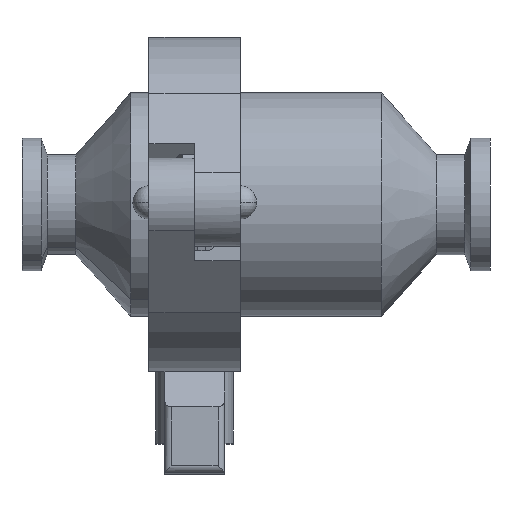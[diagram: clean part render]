
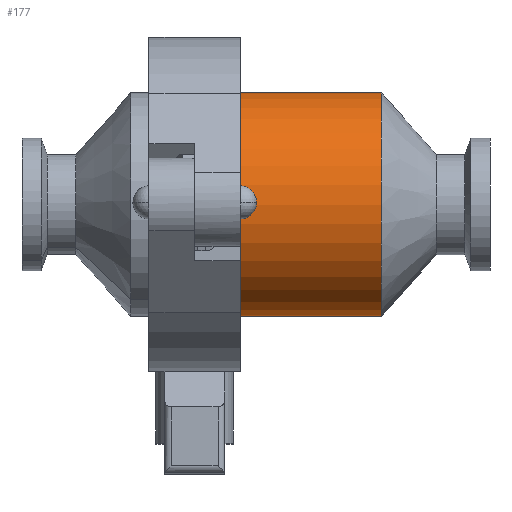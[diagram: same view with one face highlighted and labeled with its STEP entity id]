
A CAD part, left-side view. The second image highlights one B-rep face of the part: STEP entity #177.
In plain terms, the highlighted cylindrical face has radius 21.273 mm (diameter 42.545 mm), a partial arc.
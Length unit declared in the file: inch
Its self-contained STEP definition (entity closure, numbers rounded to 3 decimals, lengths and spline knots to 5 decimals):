
#177 = ADVANCED_FACE ( 'NONE', ( #6455 ), #11173, .T. ) ;
#380 = DIRECTION ( 'NONE',  ( 0., 0., -1. ) ) ;
#909 = CIRCLE ( 'NONE', #7836, 0.8375 ) ;
#927 = CARTESIAN_POINT ( 'NONE',  ( 0.12977, 1.6312, 0.64462 ) ) ;
#1011 = LINE ( 'NONE', #10580, #8327 ) ;
#1127 = CARTESIAN_POINT ( 'NONE',  ( 0.12977, 0.53155, 1.48212 ) ) ;
#1528 = LINE ( 'NONE', #11865, #3434 ) ;
#2079 = DIRECTION ( 'NONE',  ( 0., 0., -1. ) ) ;
#2511 = DIRECTION ( 'NONE',  ( 0., -1., 0. ) ) ;
#2701 = VERTEX_POINT ( 'NONE', #11198 ) ;
#3009 = VERTEX_POINT ( 'NONE', #7926 ) ;
#3418 = AXIS2_PLACEMENT_3D ( 'NONE', #11857, #2511, #11747 ) ;
#3434 = VECTOR ( 'NONE', #10950, 39.37008 ) ;
#3520 = CIRCLE ( 'NONE', #7086, 0.8375 ) ;
#3906 = DIRECTION ( 'NONE',  ( 0., -1., 0. ) ) ;
#5375 = ORIENTED_EDGE ( 'NONE', *, *, #7035, .F. ) ;
#5901 = ORIENTED_EDGE ( 'NONE', *, *, #7717, .F. ) ;
#6066 = DIRECTION ( 'NONE',  ( 0., -1., 0. ) ) ;
#6167 = VERTEX_POINT ( 'NONE', #927 ) ;
#6455 = FACE_OUTER_BOUND ( 'NONE', #10061, .T. ) ;
#6601 = VERTEX_POINT ( 'NONE', #10101 ) ;
#7035 = EDGE_CURVE ( 'NONE', #3009, #6601, #3520, .T. ) ;
#7086 = AXIS2_PLACEMENT_3D ( 'NONE', #1127, #7813, #2079 ) ;
#7571 = ORIENTED_EDGE ( 'NONE', *, *, #11201, .T. ) ;
#7717 = EDGE_CURVE ( 'NONE', #2701, #3009, #1011, .T. ) ;
#7813 = DIRECTION ( 'NONE',  ( 0., -1., 0. ) ) ;
#7836 = AXIS2_PLACEMENT_3D ( 'NONE', #11716, #6066, #380 ) ;
#7926 = CARTESIAN_POINT ( 'NONE',  ( 0.12977, 0.53155, 2.31962 ) ) ;
#8327 = VECTOR ( 'NONE', #3906, 39.37008 ) ;
#8529 = ORIENTED_EDGE ( 'NONE', *, *, #11687, .T. ) ;
#10061 = EDGE_LOOP ( 'NONE', ( #5901, #7571, #8529, #5375 ) ) ;
#10101 = CARTESIAN_POINT ( 'NONE',  ( 0.12977, 0.53155, 0.64462 ) ) ;
#10580 = CARTESIAN_POINT ( 'NONE',  ( 0.12977, 1.84355, 2.31962 ) ) ;
#10950 = DIRECTION ( 'NONE',  ( 0., -1., 0. ) ) ;
#11173 = CYLINDRICAL_SURFACE ( 'NONE', #3418, 0.8375 ) ;
#11198 = CARTESIAN_POINT ( 'NONE',  ( 0.12977, 1.6312, 2.31962 ) ) ;
#11201 = EDGE_CURVE ( 'NONE', #2701, #6167, #909, .T. ) ;
#11687 = EDGE_CURVE ( 'NONE', #6167, #6601, #1528, .T. ) ;
#11716 = CARTESIAN_POINT ( 'NONE',  ( 0.12977, 1.6312, 1.48212 ) ) ;
#11747 = DIRECTION ( 'NONE',  ( 0., 0., -1. ) ) ;
#11857 = CARTESIAN_POINT ( 'NONE',  ( 0.12977, 1.84355, 1.48212 ) ) ;
#11865 = CARTESIAN_POINT ( 'NONE',  ( 0.12977, 1.84355, 0.64462 ) ) ;
